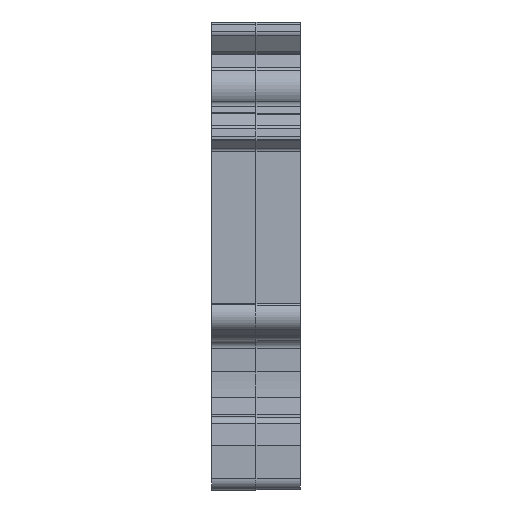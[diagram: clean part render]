
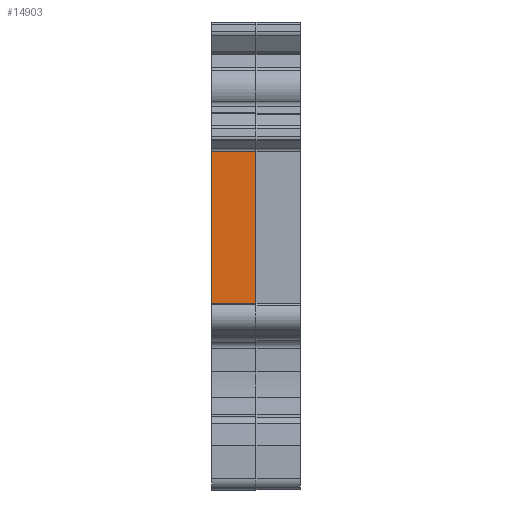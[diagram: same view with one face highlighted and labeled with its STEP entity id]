
A CAD part, left-side view. The second image highlights one B-rep face of the part: STEP entity #14903.
In plain terms, the highlighted planar face has unit normal (-1, 0, 0).
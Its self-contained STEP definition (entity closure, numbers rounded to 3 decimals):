
#42=PLANE('',#15646);
#556=LINE('',#20695,#1724);
#557=LINE('',#20697,#1725);
#558=LINE('',#20699,#1726);
#559=LINE('',#20701,#1727);
#1724=VECTOR('',#17186,1000.);
#1725=VECTOR('',#17189,1000.);
#1726=VECTOR('',#17190,1000.);
#1727=VECTOR('',#17191,1000.);
#3101=ORIENTED_EDGE('',*,*,#6453,.T.);
#3102=ORIENTED_EDGE('',*,*,#6452,.F.);
#3103=ORIENTED_EDGE('',*,*,#6454,.F.);
#3104=ORIENTED_EDGE('',*,*,#6455,.T.);
#6452=EDGE_CURVE('',#8107,#8106,#556,.T.);
#6453=EDGE_CURVE('',#8108,#8106,#557,.T.);
#6454=EDGE_CURVE('',#8109,#8107,#558,.T.);
#6455=EDGE_CURVE('',#8109,#8108,#559,.T.);
#8106=VERTEX_POINT('',#20692);
#8107=VERTEX_POINT('',#20694);
#8108=VERTEX_POINT('',#20698);
#8109=VERTEX_POINT('',#20700);
#9470=EDGE_LOOP('',(#3101,#3102,#3103,#3104));
#10055=FACE_BOUND('',#9470,.T.);
#14903=ADVANCED_FACE('',(#10055),#42,.F.);
#15646=AXIS2_PLACEMENT_3D('',#20696,#17187,#17188);
#17186=DIRECTION('',(0.,-1.,0.));
#17187=DIRECTION('',(1.,0.,0.));
#17188=DIRECTION('',(0.,0.,-1.));
#17189=DIRECTION('',(0.,0.,1.));
#17190=DIRECTION('',(0.,0.,1.));
#17191=DIRECTION('',(0.,-1.,0.));
#20692=CARTESIAN_POINT('',(-47.085,4.,23.288));
#20694=CARTESIAN_POINT('',(-47.085,8.,23.288));
#20695=CARTESIAN_POINT('',(-47.085,8.,23.288));
#20696=CARTESIAN_POINT('',(-47.085,8.,9.575));
#20697=CARTESIAN_POINT('',(-47.085,4.,9.575));
#20698=CARTESIAN_POINT('',(-47.085,4.,9.575));
#20699=CARTESIAN_POINT('',(-47.085,8.,9.575));
#20700=CARTESIAN_POINT('',(-47.085,8.,9.575));
#20701=CARTESIAN_POINT('',(-47.085,8.,9.575));
